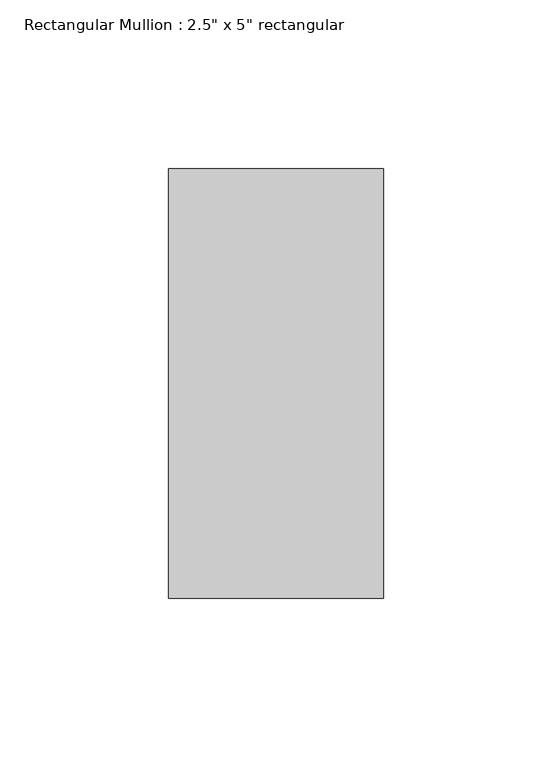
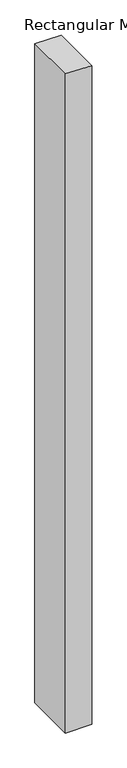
"""IFC4 building model written with IfcOpenShell, lengths in millimetres: member geometry."""

from ifc_helpers import new_model, si_unit, frame, origin, place, context, project, spatial, polyline, outline, extrude, source, transform, mapped, element, save


def member_78a116ff(model_context):
    return source(origin(), model_context, "Body", "SweptSolid", [
        extrude(outline(polyline([(0.0, 0.0), (1.0772454, -63.5), (-1678.2762637, -63.5), (-1677.5825356, 0.0), (0.0, 0.0)])), frame((0.0, -63.5, 0.0), z_axis=(0.0, 1.0, 0.0), x_axis=(0.0, 0.0, 1.0)), (0.0, 0.0, 1.0), 127.0),
    ])


if __name__ == "__main__":
    model = new_model("IFC4")
    model_context = context("Model", 3, world=origin())
    ifc_project = project(units=[si_unit("LENGTHUNIT", "METRE", prefix="MILLI")], contexts=[model_context])
    site = spatial("IfcSite", under=ifc_project)
    building = spatial("IfcBuilding", under=site)
    placement = place(None, origin())
    member_shape = member_78a116ff(model_context)
    element("IfcMember", 1, ObjectType="Rectangular Mullion : 2.5\" x 5\" rectangular", at=placement, inside=building, context=model_context, shape_type="MappedRepresentation", body=[
        mapped(member_shape, transform((0.0, 0.0, 0.0), x_axis=(1.0, 0.0, 0.0), y_axis=(0.0, 1.0, 0.0), z_axis=(0.0, 0.0, 1.0))),
    ])
    save(model, "model.ifc")
